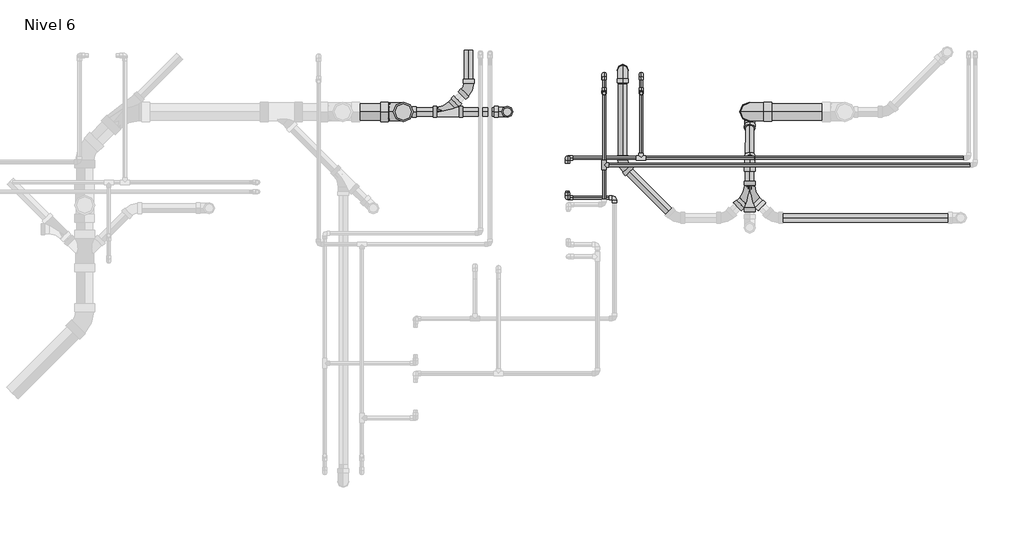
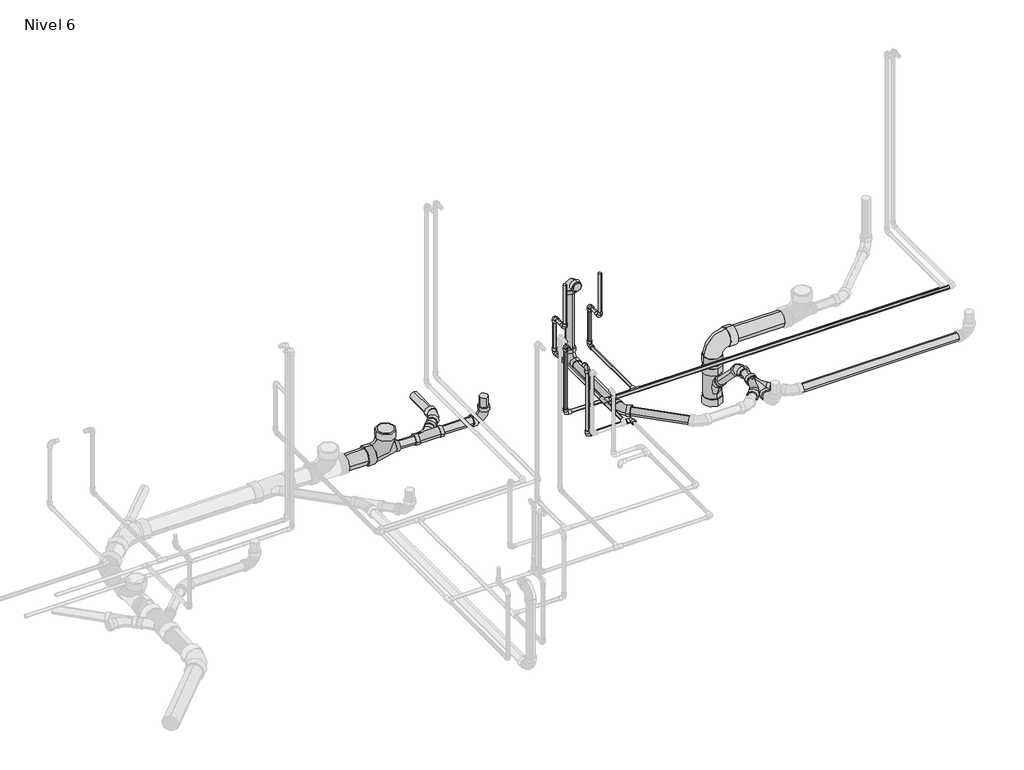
# One storey, part 6 of 11: 31 pipe segments, 24 pipe fittings.
"""IFC4 building model written with IfcOpenShell, lengths in millimetres."""

from ifc_helpers import new_model, si_unit, point, frame, frame_2d, origin, place, context, project, spatial, circle_curve, trimmed, segment, composite_curve, outline, extrude, transform, mapped, element, save
from components import pipe_fitting_ab418b84, pipe_fitting_0163322b, pipe_fitting_44a425ca, pipe_fitting_a666eca6, pipe_fitting_7e95fadc, m_codo_pvc_serie_40_9ad74631, m_codo_pvc_serie_40_ba05d404, m_codo_pvc_serie_40_dwv1_5c0ec739, m_codo_pvc_serie_40_dwv1_f5c0a64d, m_codo_pvc_serie_40_dwv1_6f1a2495, m_codo_pvc_serie_40_dwv1_f185b9cd

model = new_model("IFC4")

# Units and contexts
model_context = context("Model", 3, world=origin())
ifc_project = project(units=[si_unit("LENGTHUNIT", "METRE", prefix="MILLI")], contexts=[model_context])

# Site, building, storey
site = spatial("IfcSite", under=ifc_project)
building = spatial("IfcBuilding", under=site)
storey = spatial("IfcBuildingStorey", under=building, Name="Nivel 6", Elevation=13400.0)

# Pipe fittings
placement = place(None, origin())
pipe_fitting_shape = pipe_fitting_ab418b84(model_context)
element("IfcPipeFitting", 1, ObjectType="M_Te - PVC - Serie 40 : Estándar", at=placement, inside=storey, context=model_context, shape_type="MappedRepresentation", body=[
    mapped(pipe_fitting_shape, transform((6501.6215833, 6216.6711332, 13350.0), x_axis=(0.0, -1.0, 0.0), y_axis=(-1.0, 0.0, 0.0), z_axis=(0.0, 0.0, -1.0))),
])
element("IfcPipeFitting", 2, ObjectType="M_Te - PVC - Serie 40 : Estándar", at=placement, inside=storey, context=model_context, shape_type="MappedRepresentation", body=[
    mapped(pipe_fitting_shape, transform((6738.3784167, 6261.9268515, 13320.0), x_axis=(-1.0, 0.0, 0.0), y_axis=(0.0, -1.0, 0.0), z_axis=(0.0, 0.0, 1.0))),
])
pipe_fitting_2_shape = pipe_fitting_0163322b(model_context)
element("IfcPipeFitting", 3, ObjectType="M_Sanitario con te de reducción - PVC - Serie 40 - DWV : Estándar", at=placement, inside=storey, context=model_context, shape_type="MappedRepresentation", body=[
    mapped(pipe_fitting_2_shape, transform((5489.128297, 6555.7039726, 13250.0), x_axis=(1.0, 0.0, 0.0), y_axis=(0.0, -1.0, 0.0), z_axis=(0.0, 0.0, -1.0))),
])
pipe_fitting_3_shape = pipe_fitting_44a425ca(model_context)
element("IfcPipeFitting", 4, ObjectType="M_Sanitario con te de reducción - PVC - Serie 40 - DWV : Estándar", at=placement, inside=storey, context=model_context, shape_type="MappedRepresentation", body=[
    mapped(pipe_fitting_3_shape, transform((5218.2826915, 6555.7039726, 13250.0), x_axis=(1.0, 0.0, 0.0), y_axis=(0.0, 0.0, -1.0), z_axis=(0.0, 1.0, 0.0))),
])
pipe_fitting_4_shape = pipe_fitting_a666eca6(model_context)
element("IfcPipeFitting", 5, ObjectType="M_Sanitario con te doble con reducción - PVC - Serie 40 - DWV : Estándar", at=placement, inside=storey, context=model_context, shape_type="MappedRepresentation", body=[
    mapped(pipe_fitting_4_shape, transform((7431.4931519, 6027.6947184, 13250.0), x_axis=(0.0, -1.0, 0.0), y_axis=(-1.0, 0.0, 0.0), z_axis=(0.0, 0.0, -1.0))),
])
pipe_fitting_5_shape = pipe_fitting_7e95fadc(model_context)
element("IfcPipeFitting", 6, ObjectType="M_Sanitario con te de reducción - PVC - Serie 40 - DWV : Estándar", at=placement, inside=storey, context=model_context, shape_type="MappedRepresentation", body=[
    mapped(pipe_fitting_5_shape, transform((7432.242756, 6555.7721585, 12927.2744974), x_axis=(0.0, -0.0003748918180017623, 0.9999999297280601), y_axis=(0.003132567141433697, 0.9999950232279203, 0.00037488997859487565), z_axis=(-0.9999950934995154, 0.003132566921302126, 1.1743737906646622e-06))),
])
m_codo_pvc_serie_40_shape = m_codo_pvc_serie_40_9ad74631(model_context)
element("IfcPipeFitting", 7, ObjectType="M_Codo - PVC - Serie 40 : Estándar", at=placement, inside=storey, context=model_context, shape_type="MappedRepresentation", body=[
    mapped(m_codo_pvc_serie_40_shape, transform((6501.6215833, 6675.0992366, 13600.0), x_axis=(0.0, 0.0, -1.0), y_axis=(0.0, 1.0, 0.0), z_axis=(1.0, 0.0, 0.0))),
])
element("IfcPipeFitting", 8, ObjectType="M_Codo - PVC - Serie 40 : Estándar", at=placement, inside=storey, context=model_context, shape_type="MappedRepresentation", body=[
    mapped(m_codo_pvc_serie_40_shape, transform((6501.6215833, 6795.0992366, 13600.0), x_axis=(0.0, 1.0, 0.0), y_axis=(0.0, 0.0, -1.0), z_axis=(-1.0, 0.0, 0.0))),
])
element("IfcPipeFitting", 9, ObjectType="M_Codo - PVC - Serie 40 : Estándar", at=placement, inside=storey, context=model_context, shape_type="MappedRepresentation", body=[
    mapped(m_codo_pvc_serie_40_shape, transform((6501.6215833, 6795.0992366, 13350.0), x_axis=(0.0, 0.0, -1.0), y_axis=(0.0, -1.0, 0.0), z_axis=(-1.0, 0.0, 0.0))),
])
element("IfcPipeFitting", 10, ObjectType="M_Codo - PVC - Serie 40 : Estándar", at=placement, inside=storey, context=model_context, shape_type="MappedRepresentation", body=[
    mapped(m_codo_pvc_serie_40_shape, transform((6738.3784167, 6795.0992366, 13320.0), x_axis=(0.0, 0.0, -1.0), y_axis=(0.0, -1.0, 0.0), z_axis=(-1.0, 0.0, 0.0))),
])
element("IfcPipeFitting", 11, ObjectType="M_Codo - PVC - Serie 40 : Estándar", at=placement, inside=storey, context=model_context, shape_type="MappedRepresentation", body=[
    mapped(m_codo_pvc_serie_40_shape, transform((6267.9182604, 6261.9268515, 13320.0), x_axis=(-1.0, 0.0, 0.0), y_axis=(0.0, 0.0, 1.0), z_axis=(0.0, 1.0, 0.0))),
])
element("IfcPipeFitting", 12, ObjectType="M_Codo - PVC - Serie 40 : Estándar", at=placement, inside=storey, context=model_context, shape_type="MappedRepresentation", body=[
    mapped(m_codo_pvc_serie_40_shape, transform((6267.9182604, 6261.9268515, 13800.0), x_axis=(0.0, 0.0, 1.0), y_axis=(0.0, -1.0, 0.0), z_axis=(1.0, 0.0, 0.0))),
])
element("IfcPipeFitting", 13, ObjectType="M_Codo - PVC - Serie 40 : Estándar", at=placement, inside=storey, context=model_context, shape_type="MappedRepresentation", body=[
    mapped(m_codo_pvc_serie_40_shape, transform((6267.9182604, 6006.9268515, 13800.0), x_axis=(0.0, -1.0, 0.0), y_axis=(0.0, 0.0, -1.0), z_axis=(1.0, 0.0, 0.0))),
])
element("IfcPipeFitting", 14, ObjectType="M_Codo - PVC - Serie 40 : Estándar", at=placement, inside=storey, context=model_context, shape_type="MappedRepresentation", body=[
    mapped(m_codo_pvc_serie_40_shape, transform((6267.9182604, 6006.9268515, 13320.0), x_axis=(0.0, 0.0, -1.0), y_axis=(1.0, 0.0, 0.0), z_axis=(0.0, -1.0, 0.0))),
])
element("IfcPipeFitting", 15, ObjectType="M_Codo - PVC - Serie 40 : Estándar", at=placement, inside=storey, context=model_context, shape_type="MappedRepresentation", body=[
    mapped(m_codo_pvc_serie_40_shape, transform((6567.9182604, 6006.9268515, 13320.0), x_axis=(0.0, 1.0, 0.0), y_axis=(-1.0, 0.0, 0.0), z_axis=(0.0, 0.0, 1.0))),
])
m_codo_pvc_serie_40_2_shape = m_codo_pvc_serie_40_ba05d404(model_context)
element("IfcPipeFitting", 16, ObjectType="M_Codo - PVC - Serie 40 : Estándar", at=placement, inside=storey, context=model_context, shape_type="MappedRepresentation", body=[
    mapped(m_codo_pvc_serie_40_2_shape, transform((6738.3784167, 6675.0992366, 13600.0), x_axis=(0.0, 0.0, -1.0), y_axis=(0.0, -1.0, 0.0), z_axis=(-1.0, 0.0, 0.0))),
])
element("IfcPipeFitting", 17, ObjectType="M_Codo - PVC - Serie 40 : Estándar", at=placement, inside=storey, context=model_context, shape_type="MappedRepresentation", body=[
    mapped(m_codo_pvc_serie_40_2_shape, transform((6738.3784167, 6795.0992366, 13600.0), x_axis=(0.0, 1.0, 0.0), y_axis=(0.0, 0.0, 1.0), z_axis=(1.0, 0.0, 0.0))),
])
m_codo_pvc_serie_40_dwv1_shape = m_codo_pvc_serie_40_dwv1_5c0ec739(model_context)
element("IfcPipeFitting", 18, ObjectType="M_Codo - PVC - Serie 40 - DWV1 : Estándar 2", at=placement, inside=storey, context=model_context, shape_type="MappedRepresentation", body=[
    mapped(m_codo_pvc_serie_40_dwv1_shape, transform((6620.0, 6822.9419634, 13810.6716548), x_axis=(0.0, 1.0, 0.0), y_axis=(0.0, 0.0, -1.0), z_axis=(-1.0, 0.0, 0.0))),
])
element("IfcPipeFitting", 19, ObjectType="M_Codo - PVC - Serie 40 - DWV1 : Estándar 2", at=placement, inside=storey, context=model_context, shape_type="MappedRepresentation", body=[
    mapped(m_codo_pvc_serie_40_dwv1_shape, transform((6620.0, 6822.9419634, 13250.0), x_axis=(0.0, 0.0, -1.0), y_axis=(0.0, -1.0, 0.0), z_axis=(-1.0, 0.0, 0.0))),
])
element("IfcPipeFitting", 20, ObjectType="M_Codo - PVC - Serie 40 - DWV1 : Estándar 2", at=placement, inside=storey, context=model_context, shape_type="MappedRepresentation", body=[
    mapped(m_codo_pvc_serie_40_dwv1_shape, transform((5882.9659037, 6555.7039726, 13250.0), x_axis=(0.0, 0.0, -1.0), y_axis=(-1.0, 0.0, 0.0), z_axis=(0.0, 1.0, 0.0))),
])
m_codo_pvc_serie_40_dwv1_2_shape = m_codo_pvc_serie_40_dwv1_f5c0a64d(model_context)
element("IfcPipeFitting", 21, ObjectType="M_Codo - PVC - Serie 40 - DWV1 : Estándar 2", at=placement, inside=storey, context=model_context, shape_type="MappedRepresentation", body=[
    mapped(m_codo_pvc_serie_40_dwv1_2_shape, transform((7432.3176766, 6555.7039726, 13250.0), x_axis=(-1.0, 0.0, 0.0), y_axis=(0.0, 0.0, -1.0), z_axis=(0.0, -1.0, 0.0))),
])
m_codo_pvc_serie_40_dwv1_3_shape = m_codo_pvc_serie_40_dwv1_6f1a2495(model_context)
element("IfcPipeFitting", 22, ObjectType="M_Codo - PVC - Serie 40 - DWV1 : Estándar 2", at=placement, inside=storey, context=model_context, shape_type="MappedRepresentation", body=[
    mapped(m_codo_pvc_serie_40_dwv1_3_shape, transform((6620.0, 6215.0, 13250.0), x_axis=(0.0, -1.0, 0.0), y_axis=(1.0, 0.0, 0.0), z_axis=(0.0, 0.0, 1.0))),
])
element("IfcPipeFitting", 23, ObjectType="M_Codo - PVC - Serie 40 - DWV1 : Estándar 2", at=placement, inside=storey, context=model_context, shape_type="MappedRepresentation", body=[
    mapped(m_codo_pvc_serie_40_dwv1_3_shape, transform((5636.2603313, 6702.836007, 13250.0), x_axis=(0.7071067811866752, 0.7071067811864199, 0.0), y_axis=(-0.7071067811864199, 0.7071067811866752, 0.0), z_axis=(0.0, 0.0, 1.0))),
])
m_codo_pvc_serie_40_dwv1_4_shape = m_codo_pvc_serie_40_dwv1_f185b9cd(model_context)
element("IfcPipeFitting", 24, ObjectType="M_Codo - PVC - Serie 40 - DWV1 : Estándar 2", at=placement, inside=storey, context=model_context, shape_type="MappedRepresentation", body=[
    mapped(m_codo_pvc_serie_40_dwv1_4_shape, transform((7431.4931519, 6233.0466559, 13250.0), x_axis=(0.0, 1.0, 0.0), y_axis=(0.003131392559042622, 0.0, -0.9999950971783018), z_axis=(-0.9999950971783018, 0.0, -0.003131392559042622))),
])

# Pipe segments
element("IfcPipeSegment", 25, ObjectType="Tuberia PVC Agua Fria", at=placement, inside=storey, context=model_context, shape_type="SweptSolid", body=[
    extrude(outline(composite_curve([segment(trimmed(circle_curve(frame_2d((6216.6711332, 13350.0)), 10.31875), [point((6206.3523832, 13350.0))], [point((6216.6711332, 13360.31875))], False, "CARTESIAN"), True, "CONTINUOUS"), segment(trimmed(circle_curve(frame_2d((6216.6711332, 13350.0)), 10.31875), [point((6216.6711332, 13360.31875))], [point((6226.9898832, 13350.0))], False, "CARTESIAN"), True, "CONTINUOUS"), segment(trimmed(circle_curve(frame_2d((6216.6711332, 13350.0)), 10.31875), [point((6226.9898832, 13350.0))], [point((6216.6711332, 13339.68125))], False, "CARTESIAN"), True, "CONTINUOUS"), segment(trimmed(circle_curve(frame_2d((6216.6711332, 13350.0)), 10.31875), [point((6216.6711332, 13339.68125))], [point((6206.3523832, 13350.0))], False, "CARTESIAN"), True, "CONTINUOUS")], self_intersect=False)), frame((6532.0817396, 0.0, 0.0), z_axis=(1.0, 0.0, 0.0), x_axis=(0.0, 1.0, 0.0)), (0.0, 0.0, 1.0), 2307.5298926),
])
element("IfcPipeSegment", 26, ObjectType="Tuberia PVC Agua Fria", at=placement, inside=storey, context=model_context, shape_type="SweptSolid", body=[
    extrude(outline(composite_curve([segment(trimmed(circle_curve(frame_2d((13600.0, 6501.6215833)), 10.31875), [point((13600.0, 6511.9403333))], [point((13610.31875, 6501.6215833))], False, "CARTESIAN"), True, "CONTINUOUS"), segment(trimmed(circle_curve(frame_2d((13600.0, 6501.6215833)), 10.31875), [point((13610.31875, 6501.6215833))], [point((13600.0, 6491.3028333))], False, "CARTESIAN"), True, "CONTINUOUS"), segment(trimmed(circle_curve(frame_2d((13600.0, 6501.6215833)), 10.31875), [point((13600.0, 6491.3028333))], [point((13589.68125, 6501.6215833))], False, "CARTESIAN"), True, "CONTINUOUS"), segment(trimmed(circle_curve(frame_2d((13600.0, 6501.6215833)), 10.31875), [point((13589.68125, 6501.6215833))], [point((13600.0, 6511.9403333))], False, "CARTESIAN"), True, "CONTINUOUS")], self_intersect=False)), frame((0.0, 6708.5002366, 0.0), z_axis=(0.0, 1.0, 0.0), x_axis=(0.0, 0.0, 1.0)), (0.0, 0.0, 1.0), 53.198),
])
element("IfcPipeSegment", 27, ObjectType="Tuberia PVC Agua Fria", at=placement, inside=storey, context=model_context, shape_type="SweptSolid", body=[
    extrude(outline(composite_curve([segment(trimmed(circle_curve(frame_2d((6501.6215833, 6675.0992366)), 10.31875), [point((6511.9403333, 6675.0992366))], [point((6501.6215833, 6664.7804866))], False, "CARTESIAN"), True, "CONTINUOUS"), segment(trimmed(circle_curve(frame_2d((6501.6215833, 6675.0992366)), 10.31875), [point((6501.6215833, 6664.7804866))], [point((6491.3028333, 6675.0992366))], False, "CARTESIAN"), True, "CONTINUOUS"), segment(trimmed(circle_curve(frame_2d((6501.6215833, 6675.0992366)), 10.31875), [point((6491.3028333, 6675.0992366))], [point((6501.6215833, 6685.4179866))], False, "CARTESIAN"), True, "CONTINUOUS"), segment(trimmed(circle_curve(frame_2d((6501.6215833, 6675.0992366)), 10.31875), [point((6501.6215833, 6685.4179866))], [point((6511.9403333, 6675.0992366))], False, "CARTESIAN"), True, "CONTINUOUS")], self_intersect=False)), frame((0.0, 0.0, 13633.401), z_axis=(0.0, 0.0, 1.0), x_axis=(1.0, 0.0, 0.0)), (0.0, 0.0, 1.0), 274.0983614),
])
element("IfcPipeSegment", 28, ObjectType="Tuberia PVC Agua Fria", at=placement, inside=storey, context=model_context, shape_type="SweptSolid", body=[
    extrude(outline(composite_curve([segment(trimmed(circle_curve(frame_2d((13350.0, 6501.6215833)), 10.31875), [point((13350.0, 6511.9403333))], [point((13360.31875, 6501.6215833))], False, "CARTESIAN"), True, "CONTINUOUS"), segment(trimmed(circle_curve(frame_2d((13350.0, 6501.6215833)), 10.31875), [point((13360.31875, 6501.6215833))], [point((13350.0, 6491.3028333))], False, "CARTESIAN"), True, "CONTINUOUS"), segment(trimmed(circle_curve(frame_2d((13350.0, 6501.6215833)), 10.31875), [point((13350.0, 6491.3028333))], [point((13339.68125, 6501.6215833))], False, "CARTESIAN"), True, "CONTINUOUS"), segment(trimmed(circle_curve(frame_2d((13350.0, 6501.6215833)), 10.31875), [point((13339.68125, 6501.6215833))], [point((13350.0, 6511.9403333))], False, "CARTESIAN"), True, "CONTINUOUS")], self_intersect=False)), frame((0.0, 6247.1312895, 0.0), z_axis=(0.0, 1.0, 0.0), x_axis=(0.0, 0.0, 1.0)), (0.0, 0.0, 1.0), 514.5669472),
])
element("IfcPipeSegment", 29, ObjectType="Tuberia PVC Agua Fria", at=placement, inside=storey, context=model_context, shape_type="SweptSolid", body=[
    extrude(outline(composite_curve([segment(trimmed(circle_curve(frame_2d((6501.6215833, 6795.0992366)), 10.31875), [point((6511.9403333, 6795.0992366))], [point((6501.6215833, 6784.7804866))], False, "CARTESIAN"), True, "CONTINUOUS"), segment(trimmed(circle_curve(frame_2d((6501.6215833, 6795.0992366)), 10.31875), [point((6501.6215833, 6784.7804866))], [point((6491.3028333, 6795.0992366))], False, "CARTESIAN"), True, "CONTINUOUS"), segment(trimmed(circle_curve(frame_2d((6501.6215833, 6795.0992366)), 10.31875), [point((6491.3028333, 6795.0992366))], [point((6501.6215833, 6805.4179866))], False, "CARTESIAN"), True, "CONTINUOUS"), segment(trimmed(circle_curve(frame_2d((6501.6215833, 6795.0992366)), 10.31875), [point((6501.6215833, 6805.4179866))], [point((6511.9403333, 6795.0992366))], False, "CARTESIAN"), True, "CONTINUOUS")], self_intersect=False)), frame((0.0, 0.0, 13383.401), z_axis=(0.0, 0.0, 1.0), x_axis=(1.0, 0.0, 0.0)), (0.0, 0.0, 1.0), 183.198),
])
element("IfcPipeSegment", 30, ObjectType="Tuberia PVC Agua Fria", at=placement, inside=storey, context=model_context, shape_type="SweptSolid", body=[
    extrude(outline(composite_curve([segment(trimmed(circle_curve(frame_2d((13350.0, 6501.6215833)), 10.31875), [point((13350.0, 6491.3028333))], [point((13339.68125, 6501.6215833))], False, "CARTESIAN"), True, "CONTINUOUS"), segment(trimmed(circle_curve(frame_2d((13350.0, 6501.6215833)), 10.31875), [point((13339.68125, 6501.6215833))], [point((13350.0, 6511.9403333))], False, "CARTESIAN"), True, "CONTINUOUS"), segment(trimmed(circle_curve(frame_2d((13350.0, 6501.6215833)), 10.31875), [point((13350.0, 6511.9403333))], [point((13360.31875, 6501.6215833))], False, "CARTESIAN"), True, "CONTINUOUS"), segment(trimmed(circle_curve(frame_2d((13350.0, 6501.6215833)), 10.31875), [point((13360.31875, 6501.6215833))], [point((13350.0, 6491.3028333))], False, "CARTESIAN"), True, "CONTINUOUS")], self_intersect=False)), frame((0.0, 5996.4991896, 0.0), z_axis=(0.0, 1.0, 0.0), x_axis=(0.0, 0.0, 1.0)), (0.0, 0.0, 1.0), 189.7117874),
])
element("IfcPipeSegment", 31, ObjectType="Tuberia PVC VENTILACION", at=placement, inside=storey, context=model_context, shape_type="SweptSolid", body=[
    extrude(outline(composite_curve([segment(trimmed(circle_curve(frame_2d((13250.0, 5636.2603313)), 26.9875), [point((13250.0, 5663.2478313))], [point((13276.9875, 5636.2603313))], False, "CARTESIAN"), True, "CONTINUOUS"), segment(trimmed(circle_curve(frame_2d((13250.0, 5636.2603313)), 26.9875), [point((13276.9875, 5636.2603313))], [point((13250.0, 5609.2728313))], False, "CARTESIAN"), True, "CONTINUOUS"), segment(trimmed(circle_curve(frame_2d((13250.0, 5636.2603313)), 26.9875), [point((13250.0, 5609.2728313))], [point((13223.0125, 5636.2603313))], False, "CARTESIAN"), True, "CONTINUOUS"), segment(trimmed(circle_curve(frame_2d((13250.0, 5636.2603313)), 26.9875), [point((13223.0125, 5636.2603313))], [point((13250.0, 5663.2478313))], False, "CARTESIAN"), True, "CONTINUOUS")], self_intersect=False)), frame((0.0, 6763.2641945, 0.0), z_axis=(0.0, 1.0, 0.0), x_axis=(0.0, 0.0, 1.0)), (0.0, 0.0, 1.0), 184.5718125),
])
element("IfcPipeSegment", 32, ObjectType="Tuberia PVC Agua Caliente", at=placement, inside=storey, context=model_context, shape_type="SweptSolid", body=[
    extrude(outline(composite_curve([segment(trimmed(circle_curve(frame_2d((13600.0, 6738.3784167)), 10.31875), [point((13600.0, 6748.6971667))], [point((13610.31875, 6738.3784167))], False, "CARTESIAN"), True, "CONTINUOUS"), segment(trimmed(circle_curve(frame_2d((13600.0, 6738.3784167)), 10.31875), [point((13610.31875, 6738.3784167))], [point((13600.0, 6728.0596667))], False, "CARTESIAN"), True, "CONTINUOUS"), segment(trimmed(circle_curve(frame_2d((13600.0, 6738.3784167)), 10.31875), [point((13600.0, 6728.0596667))], [point((13589.68125, 6738.3784167))], False, "CARTESIAN"), True, "CONTINUOUS"), segment(trimmed(circle_curve(frame_2d((13600.0, 6738.3784167)), 10.31875), [point((13589.68125, 6738.3784167))], [point((13600.0, 6748.6971667))], False, "CARTESIAN"), True, "CONTINUOUS")], self_intersect=False)), frame((0.0, 6708.5002366, 0.0), z_axis=(0.0, 1.0, 0.0), x_axis=(0.0, 0.0, 1.0)), (0.0, 0.0, 1.0), 53.198),
])
element("IfcPipeSegment", 33, ObjectType="Tuberia PVC Agua Caliente", at=placement, inside=storey, context=model_context, shape_type="SweptSolid", body=[
    extrude(outline(composite_curve([segment(trimmed(circle_curve(frame_2d((6738.3784167, 6675.0992366)), 10.31875), [point((6748.6971667, 6675.0992366))], [point((6738.3784167, 6664.7804866))], False, "CARTESIAN"), True, "CONTINUOUS"), segment(trimmed(circle_curve(frame_2d((6738.3784167, 6675.0992366)), 10.31875), [point((6738.3784167, 6664.7804866))], [point((6728.0596667, 6675.0992366))], False, "CARTESIAN"), True, "CONTINUOUS"), segment(trimmed(circle_curve(frame_2d((6738.3784167, 6675.0992366)), 10.31875), [point((6728.0596667, 6675.0992366))], [point((6738.3784167, 6685.4179866))], False, "CARTESIAN"), True, "CONTINUOUS"), segment(trimmed(circle_curve(frame_2d((6738.3784167, 6675.0992366)), 10.31875), [point((6738.3784167, 6685.4179866))], [point((6748.6971667, 6675.0992366))], False, "CARTESIAN"), True, "CONTINUOUS")], self_intersect=False)), frame((0.0, 0.0, 13633.401), z_axis=(0.0, 0.0, 1.0), x_axis=(1.0, 0.0, 0.0)), (0.0, 0.0, 1.0), 274.0983614),
])
element("IfcPipeSegment", 34, ObjectType="Tuberia PVC Agua Caliente", at=placement, inside=storey, context=model_context, shape_type="SweptSolid", body=[
    extrude(outline(composite_curve([segment(trimmed(circle_curve(frame_2d((6738.3784167, 6795.0992366)), 10.31875), [point((6748.6971667, 6795.0992366))], [point((6738.3784167, 6784.7804866))], False, "CARTESIAN"), True, "CONTINUOUS"), segment(trimmed(circle_curve(frame_2d((6738.3784167, 6795.0992366)), 10.31875), [point((6738.3784167, 6784.7804866))], [point((6728.0596667, 6795.0992366))], False, "CARTESIAN"), True, "CONTINUOUS"), segment(trimmed(circle_curve(frame_2d((6738.3784167, 6795.0992366)), 10.31875), [point((6728.0596667, 6795.0992366))], [point((6738.3784167, 6805.4179866))], False, "CARTESIAN"), True, "CONTINUOUS"), segment(trimmed(circle_curve(frame_2d((6738.3784167, 6795.0992366)), 10.31875), [point((6738.3784167, 6805.4179866))], [point((6748.6971667, 6795.0992366))], False, "CARTESIAN"), True, "CONTINUOUS")], self_intersect=False)), frame((0.0, 0.0, 13353.401), z_axis=(0.0, 0.0, 1.0), x_axis=(1.0, 0.0, 0.0)), (0.0, 0.0, 1.0), 213.198),
])
element("IfcPipeSegment", 35, ObjectType="Tuberia PVC Agua Caliente", at=placement, inside=storey, context=model_context, shape_type="SweptSolid", body=[
    extrude(outline(composite_curve([segment(trimmed(circle_curve(frame_2d((13320.0, 6738.3784167)), 10.31875), [point((13320.0, 6728.0596667))], [point((13309.68125, 6738.3784167))], False, "CARTESIAN"), True, "CONTINUOUS"), segment(trimmed(circle_curve(frame_2d((13320.0, 6738.3784167)), 10.31875), [point((13309.68125, 6738.3784167))], [point((13320.0, 6748.6971667))], False, "CARTESIAN"), True, "CONTINUOUS"), segment(trimmed(circle_curve(frame_2d((13320.0, 6738.3784167)), 10.31875), [point((13320.0, 6748.6971667))], [point((13330.31875, 6738.3784167))], False, "CARTESIAN"), True, "CONTINUOUS"), segment(trimmed(circle_curve(frame_2d((13320.0, 6738.3784167)), 10.31875), [point((13330.31875, 6738.3784167))], [point((13320.0, 6728.0596667))], False, "CARTESIAN"), True, "CONTINUOUS")], self_intersect=False)), frame((0.0, 6292.3870077, 0.0), z_axis=(0.0, 1.0, 0.0), x_axis=(0.0, 0.0, 1.0)), (0.0, 0.0, 1.0), 469.3112289),
])
element("IfcPipeSegment", 36, ObjectType="Tuberia PVC Agua Caliente", at=placement, inside=storey, context=model_context, shape_type="SweptSolid", body=[
    extrude(outline(composite_curve([segment(trimmed(circle_curve(frame_2d((6261.9268515, 13320.0)), 10.31875), [point((6251.6081015, 13320.0))], [point((6261.9268515, 13330.31875))], False, "CARTESIAN"), True, "CONTINUOUS"), segment(trimmed(circle_curve(frame_2d((6261.9268515, 13320.0)), 10.31875), [point((6261.9268515, 13330.31875))], [point((6272.2456015, 13320.0))], False, "CARTESIAN"), True, "CONTINUOUS"), segment(trimmed(circle_curve(frame_2d((6261.9268515, 13320.0)), 10.31875), [point((6272.2456015, 13320.0))], [point((6261.9268515, 13309.68125))], False, "CARTESIAN"), True, "CONTINUOUS"), segment(trimmed(circle_curve(frame_2d((6261.9268515, 13320.0)), 10.31875), [point((6261.9268515, 13309.68125))], [point((6251.6081015, 13320.0))], False, "CARTESIAN"), True, "CONTINUOUS")], self_intersect=False)), frame((6768.8385729, 0.0, 0.0), z_axis=(1.0, 0.0, 0.0), x_axis=(0.0, 1.0, 0.0)), (0.0, 0.0, 1.0), 2029.4500322),
])
element("IfcPipeSegment", 37, ObjectType="Tuberia PVC Agua Caliente", at=placement, inside=storey, context=model_context, shape_type="SweptSolid", body=[
    extrude(outline(composite_curve([segment(trimmed(circle_curve(frame_2d((6261.9268515, 13320.0)), 10.31875), [point((6272.2456015, 13320.0))], [point((6261.9268515, 13309.68125))], False, "CARTESIAN"), True, "CONTINUOUS"), segment(trimmed(circle_curve(frame_2d((6261.9268515, 13320.0)), 10.31875), [point((6261.9268515, 13309.68125))], [point((6251.6081015, 13320.0))], False, "CARTESIAN"), True, "CONTINUOUS"), segment(trimmed(circle_curve(frame_2d((6261.9268515, 13320.0)), 10.31875), [point((6251.6081015, 13320.0))], [point((6261.9268515, 13330.31875))], False, "CARTESIAN"), True, "CONTINUOUS"), segment(trimmed(circle_curve(frame_2d((6261.9268515, 13320.0)), 10.31875), [point((6261.9268515, 13330.31875))], [point((6272.2456015, 13320.0))], False, "CARTESIAN"), True, "CONTINUOUS")], self_intersect=False)), frame((6301.3192604, 0.0, 0.0), z_axis=(1.0, 0.0, 0.0), x_axis=(0.0, 1.0, 0.0)), (0.0, 0.0, 1.0), 406.599),
])
element("IfcPipeSegment", 38, ObjectType="Tuberia PVC Agua Caliente", at=placement, inside=storey, context=model_context, shape_type="SweptSolid", body=[
    extrude(outline(composite_curve([segment(trimmed(circle_curve(frame_2d((13800.0, 6267.9182604)), 10.31875), [point((13800.0, 6257.5995104))], [point((13789.68125, 6267.9182604))], False, "CARTESIAN"), True, "CONTINUOUS"), segment(trimmed(circle_curve(frame_2d((13800.0, 6267.9182604)), 10.31875), [point((13789.68125, 6267.9182604))], [point((13800.0, 6278.2370104))], False, "CARTESIAN"), True, "CONTINUOUS"), segment(trimmed(circle_curve(frame_2d((13800.0, 6267.9182604)), 10.31875), [point((13800.0, 6278.2370104))], [point((13810.31875, 6267.9182604))], False, "CARTESIAN"), True, "CONTINUOUS"), segment(trimmed(circle_curve(frame_2d((13800.0, 6267.9182604)), 10.31875), [point((13810.31875, 6267.9182604))], [point((13800.0, 6257.5995104))], False, "CARTESIAN"), True, "CONTINUOUS")], self_intersect=False)), frame((0.0, 6040.3278515, 0.0), z_axis=(0.0, 1.0, 0.0), x_axis=(0.0, 0.0, 1.0)), (0.0, 0.0, 1.0), 7.599),
])
element("IfcPipeSegment", 39, ObjectType="Tuberia PVC Agua Caliente", at=placement, inside=storey, context=model_context, shape_type="SweptSolid", body=[
    extrude(outline(composite_curve([segment(trimmed(circle_curve(frame_2d((6267.9182604, 6261.9268515)), 10.31875), [point((6257.5995104, 6261.9268515))], [point((6267.9182604, 6272.2456015))], False, "CARTESIAN"), True, "CONTINUOUS"), segment(trimmed(circle_curve(frame_2d((6267.9182604, 6261.9268515)), 10.31875), [point((6267.9182604, 6272.2456015))], [point((6278.2370104, 6261.9268515))], False, "CARTESIAN"), True, "CONTINUOUS"), segment(trimmed(circle_curve(frame_2d((6267.9182604, 6261.9268515)), 10.31875), [point((6278.2370104, 6261.9268515))], [point((6267.9182604, 6251.6081015))], False, "CARTESIAN"), True, "CONTINUOUS"), segment(trimmed(circle_curve(frame_2d((6267.9182604, 6261.9268515)), 10.31875), [point((6267.9182604, 6251.6081015))], [point((6257.5995104, 6261.9268515))], False, "CARTESIAN"), True, "CONTINUOUS")], self_intersect=False)), frame((0.0, 0.0, 13353.401), z_axis=(0.0, 0.0, 1.0), x_axis=(1.0, 0.0, 0.0)), (0.0, 0.0, 1.0), 413.198),
])
element("IfcPipeSegment", 40, ObjectType="Tuberia PVC Agua Caliente", at=placement, inside=storey, context=model_context, shape_type="SweptSolid", body=[
    extrude(outline(composite_curve([segment(trimmed(circle_curve(frame_2d((6006.9268515, 13320.0)), 10.31875), [point((5996.6081015, 13320.0))], [point((6006.9268515, 13330.31875))], False, "CARTESIAN"), True, "CONTINUOUS"), segment(trimmed(circle_curve(frame_2d((6006.9268515, 13320.0)), 10.31875), [point((6006.9268515, 13330.31875))], [point((6017.2456015, 13320.0))], False, "CARTESIAN"), True, "CONTINUOUS"), segment(trimmed(circle_curve(frame_2d((6006.9268515, 13320.0)), 10.31875), [point((6017.2456015, 13320.0))], [point((6006.9268515, 13309.68125))], False, "CARTESIAN"), True, "CONTINUOUS"), segment(trimmed(circle_curve(frame_2d((6006.9268515, 13320.0)), 10.31875), [point((6006.9268515, 13309.68125))], [point((5996.6081015, 13320.0))], False, "CARTESIAN"), True, "CONTINUOUS")], self_intersect=False)), frame((6301.3192604, 0.0, 0.0), z_axis=(1.0, 0.0, 0.0), x_axis=(0.0, 1.0, 0.0)), (0.0, 0.0, 1.0), 233.198),
])
element("IfcPipeSegment", 41, ObjectType="Tuberia PVC Agua Caliente", at=placement, inside=storey, context=model_context, shape_type="SweptSolid", body=[
    extrude(outline(composite_curve([segment(trimmed(circle_curve(frame_2d((6267.9182604, 6006.9268515)), 10.31875), [point((6278.2370104, 6006.9268515))], [point((6267.9182604, 5996.6081015))], False, "CARTESIAN"), True, "CONTINUOUS"), segment(trimmed(circle_curve(frame_2d((6267.9182604, 6006.9268515)), 10.31875), [point((6267.9182604, 5996.6081015))], [point((6257.5995104, 6006.9268515))], False, "CARTESIAN"), True, "CONTINUOUS"), segment(trimmed(circle_curve(frame_2d((6267.9182604, 6006.9268515)), 10.31875), [point((6257.5995104, 6006.9268515))], [point((6267.9182604, 6017.2456015))], False, "CARTESIAN"), True, "CONTINUOUS"), segment(trimmed(circle_curve(frame_2d((6267.9182604, 6006.9268515)), 10.31875), [point((6267.9182604, 6017.2456015))], [point((6278.2370104, 6006.9268515))], False, "CARTESIAN"), True, "CONTINUOUS")], self_intersect=False)), frame((0.0, 0.0, 13353.401), z_axis=(0.0, 0.0, 1.0), x_axis=(1.0, 0.0, 0.0)), (0.0, 0.0, 1.0), 413.198),
])
element("IfcPipeSegment", 42, ObjectType="Tuberia PVC Agua Caliente", at=placement, inside=storey, context=model_context, shape_type="SweptSolid", body=[
    extrude(outline(composite_curve([segment(trimmed(circle_curve(frame_2d((0.0, -10.31875)), 10.31875), [point((0.0, 0.0))], [point((10.31875, -10.31875))], False, "CARTESIAN"), True, "CONTINUOUS"), segment(trimmed(circle_curve(frame_2d((0.0, -10.31875)), 10.31875), [point((10.31875, -10.31875))], [point((0.0, -20.6375))], False, "CARTESIAN"), True, "CONTINUOUS"), segment(trimmed(circle_curve(frame_2d((0.0, -10.31875)), 10.31875), [point((0.0, -20.6375))], [point((-10.31875, -10.31875))], False, "CARTESIAN"), True, "CONTINUOUS"), segment(trimmed(circle_curve(frame_2d((0.0, -10.31875)), 10.31875), [point((-10.31875, -10.31875))], [point((0.0, 0.0))], False, "CARTESIAN"), True, "CONTINUOUS")], self_intersect=False)), frame((6257.5995104, 6225.9268515, 13800.0), z_axis=(-1.679067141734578e-12, 1.0, 0.0), x_axis=(0.0, 0.0, -1.0)), (0.0, 0.0, 1.0), 2.599),
])
element("IfcPipeSegment", 43, ObjectType="Tuberia PVC Sanitario", at=placement, inside=storey, context=model_context, shape_type="SweptSolid", body=[
    extrude(outline(composite_curve([segment(trimmed(circle_curve(frame_2d((5877.7956387, 13250.0)), 26.9875), [point((5904.7831387, 13250.0))], [point((5877.7956387, 13223.0125))], False, "CARTESIAN"), True, "CONTINUOUS"), segment(trimmed(circle_curve(frame_2d((5877.7956387, 13250.0)), 26.9875), [point((5877.7956387, 13223.0125))], [point((5850.8081387, 13250.0))], False, "CARTESIAN"), True, "CONTINUOUS"), segment(trimmed(circle_curve(frame_2d((5877.7956387, 13250.0)), 26.9875), [point((5850.8081387, 13250.0))], [point((5877.7956387, 13276.9875))], False, "CARTESIAN"), True, "CONTINUOUS"), segment(trimmed(circle_curve(frame_2d((5877.7956387, 13250.0)), 26.9875), [point((5877.7956387, 13276.9875))], [point((5904.7831387, 13250.0))], False, "CARTESIAN"), True, "CONTINUOUS")], self_intersect=False)), frame((7641.8204191, 0.0, 0.0), z_axis=(1.0, 0.0, 0.0), x_axis=(0.0, 1.0, 0.0)), (0.0, 0.0, 1.0), 1057.1464575),
])
element("IfcPipeSegment", 44, ObjectType="Tuberia PVC Sanitario", at=placement, inside=storey, context=model_context, shape_type="SweptSolid", body=[
    extrude(outline(composite_curve([segment(trimmed(circle_curve(frame_2d((6555.7039726, 13250.0)), 52.3875), [point((6608.0914726, 13250.0))], [point((6555.7039726, 13197.6125))], False, "CARTESIAN"), True, "CONTINUOUS"), segment(trimmed(circle_curve(frame_2d((6555.7039726, 13250.0)), 52.3875), [point((6555.7039726, 13197.6125))], [point((6503.3164726, 13250.0))], False, "CARTESIAN"), True, "CONTINUOUS"), segment(trimmed(circle_curve(frame_2d((6555.7039726, 13250.0)), 52.3875), [point((6503.3164726, 13250.0))], [point((6555.7039726, 13302.3875))], False, "CARTESIAN"), True, "CONTINUOUS"), segment(trimmed(circle_curve(frame_2d((6555.7039726, 13250.0)), 52.3875), [point((6555.7039726, 13302.3875))], [point((6608.0914726, 13250.0))], False, "CARTESIAN"), True, "CONTINUOUS")], self_intersect=False)), frame((7573.7877391, 0.0, 0.0), z_axis=(1.0, 0.0, 0.0), x_axis=(0.0, 1.0, 0.0)), (0.0, 0.0, 1.0), 322.0143327),
])
element("IfcPipeSegment", 45, ObjectType="Tuberia PVC Sanitario", at=placement, inside=storey, context=model_context, shape_type="SweptSolid", body=[
    extrude(outline(composite_curve([segment(trimmed(circle_curve(frame_2d((13250.0, 6620.0)), 26.9875), [point((13250.0, 6593.0125))], [point((13223.0125, 6620.0))], False, "CARTESIAN"), True, "CONTINUOUS"), segment(trimmed(circle_curve(frame_2d((13250.0, 6620.0)), 26.9875), [point((13223.0125, 6620.0))], [point((13250.0, 6646.9875))], False, "CARTESIAN"), True, "CONTINUOUS"), segment(trimmed(circle_curve(frame_2d((13250.0, 6620.0)), 26.9875), [point((13250.0, 6646.9875))], [point((13276.9875, 6620.0))], False, "CARTESIAN"), True, "CONTINUOUS"), segment(trimmed(circle_curve(frame_2d((13250.0, 6620.0)), 26.9875), [point((13276.9875, 6620.0))], [point((13250.0, 6593.0125))], False, "CARTESIAN"), True, "CONTINUOUS")], self_intersect=False)), frame((0.0, 6275.4281875, 0.0), z_axis=(0.0, 1.0, 0.0), x_axis=(0.0, 0.0, 1.0)), (0.0, 0.0, 1.0), 464.9717134),
])
element("IfcPipeSegment", 46, ObjectType="Tuberia PVC Sanitario", at=placement, inside=storey, context=model_context, shape_type="SweptSolid", body=[
    extrude(outline(composite_curve([segment(trimmed(circle_curve(frame_2d((13810.6716548, 6620.0)), 26.9875), [point((13810.6716548, 6646.9875))], [point((13837.6591548, 6620.0))], False, "CARTESIAN"), True, "CONTINUOUS"), segment(trimmed(circle_curve(frame_2d((13810.6716548, 6620.0)), 26.9875), [point((13837.6591548, 6620.0))], [point((13810.6716548, 6593.0125))], False, "CARTESIAN"), True, "CONTINUOUS"), segment(trimmed(circle_curve(frame_2d((13810.6716548, 6620.0)), 26.9875), [point((13810.6716548, 6593.0125))], [point((13783.6841548, 6620.0))], False, "CARTESIAN"), True, "CONTINUOUS"), segment(trimmed(circle_curve(frame_2d((13810.6716548, 6620.0)), 26.9875), [point((13783.6841548, 6620.0))], [point((13810.6716548, 6646.9875))], False, "CARTESIAN"), True, "CONTINUOUS")], self_intersect=False)), frame((0.0, 6735.0, 0.0), z_axis=(0.0, 1.0, 0.0), x_axis=(0.0, 0.0, 1.0)), (0.0, 0.0, 1.0), 5.3999009),
])
element("IfcPipeSegment", 47, ObjectType="Tuberia PVC Sanitario", at=placement, inside=storey, context=model_context, shape_type="SweptSolid", body=[
    extrude(outline(composite_curve([segment(trimmed(circle_curve(frame_2d((6620.0, 6822.9419634)), 26.9875), [point((6646.9875, 6822.9419634))], [point((6620.0, 6795.9544634))], False, "CARTESIAN"), True, "CONTINUOUS"), segment(trimmed(circle_curve(frame_2d((6620.0, 6822.9419634)), 26.9875), [point((6620.0, 6795.9544634))], [point((6593.0125, 6822.9419634))], False, "CARTESIAN"), True, "CONTINUOUS"), segment(trimmed(circle_curve(frame_2d((6620.0, 6822.9419634)), 26.9875), [point((6593.0125, 6822.9419634))], [point((6620.0, 6849.9294634))], False, "CARTESIAN"), True, "CONTINUOUS"), segment(trimmed(circle_curve(frame_2d((6620.0, 6822.9419634)), 26.9875), [point((6620.0, 6849.9294634))], [point((6646.9875, 6822.9419634))], False, "CARTESIAN"), True, "CONTINUOUS")], self_intersect=False)), frame((0.0, 0.0, 13332.5420625), z_axis=(0.0, 0.0, 1.0), x_axis=(1.0, 0.0, 0.0)), (0.0, 0.0, 1.0), 395.5875298),
])
element("IfcPipeSegment", 48, ObjectType="Tuberia PVC Sanitario", at=placement, inside=storey, context=model_context, shape_type="SweptSolid", body=[
    extrude(outline(composite_curve([segment(trimmed(circle_curve(frame_2d((0.0, -26.9875)), 26.9875), [point((-26.9875, -26.9875))], [point((0.0, 0.0))], False, "CARTESIAN"), True, "CONTINUOUS"), segment(trimmed(circle_curve(frame_2d((0.0, -26.9875)), 26.9875), [point((0.0, 0.0))], [point((26.9875, -26.9875))], False, "CARTESIAN"), True, "CONTINUOUS"), segment(trimmed(circle_curve(frame_2d((0.0, -26.9875)), 26.9875), [point((26.9875, -26.9875))], [point((0.0, -53.975))], False, "CARTESIAN"), True, "CONTINUOUS"), segment(trimmed(circle_curve(frame_2d((0.0, -26.9875)), 26.9875), [point((0.0, -53.975))], [point((-26.9875, -26.9875))], False, "CARTESIAN"), True, "CONTINUOUS")], self_intersect=False)), frame((6914.4751802, 5920.5248198, 13223.0125), z_axis=(-0.707106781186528, 0.7071067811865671, 0.0), x_axis=(0.7071067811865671, 0.707106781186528, 0.0)), (0.0, 0.0, 1.0), 356.0226061),
])
element("IfcPipeSegment", 49, ObjectType="Tuberia PVC Sanitario", at=placement, inside=storey, context=model_context, shape_type="SweptSolid", body=[
    extrude(outline(composite_curve([segment(trimmed(circle_curve(frame_2d((13250.0, 7431.4931519)), 26.9875), [point((13250.0, 7458.4806519))], [point((13276.9875, 7431.4931519))], False, "CARTESIAN"), True, "CONTINUOUS"), segment(trimmed(circle_curve(frame_2d((13250.0, 7431.4931519)), 26.9875), [point((13276.9875, 7431.4931519))], [point((13250.0, 7404.5056519))], False, "CARTESIAN"), True, "CONTINUOUS"), segment(trimmed(circle_curve(frame_2d((13250.0, 7431.4931519)), 26.9875), [point((13250.0, 7404.5056519))], [point((13223.0125, 7431.4931519))], False, "CARTESIAN"), True, "CONTINUOUS"), segment(trimmed(circle_curve(frame_2d((13250.0, 7431.4931519)), 26.9875), [point((13223.0125, 7431.4931519))], [point((13250.0, 7458.4806519))], False, "CARTESIAN"), True, "CONTINUOUS")], self_intersect=False)), frame((0.0, 6113.0466559, 0.0), z_axis=(0.0, 1.0, 0.0), x_axis=(0.0, 0.0, 1.0)), (0.0, 0.0, 1.0), 62.8579375),
])
element("IfcPipeSegment", 50, ObjectType="Tuberia PVC Sanitario", at=placement, inside=storey, context=model_context, shape_type="SweptSolid", body=[
    extrude(outline(composite_curve([segment(trimmed(circle_curve(frame_2d((5882.9659037, 6555.7039726)), 26.9875), [point((5909.9534037, 6555.7039726))], [point((5882.9659037, 6528.7164726))], False, "CARTESIAN"), True, "CONTINUOUS"), segment(trimmed(circle_curve(frame_2d((5882.9659037, 6555.7039726)), 26.9875), [point((5882.9659037, 6528.7164726))], [point((5855.9784037, 6555.7039726))], False, "CARTESIAN"), True, "CONTINUOUS"), segment(trimmed(circle_curve(frame_2d((5882.9659037, 6555.7039726)), 26.9875), [point((5855.9784037, 6555.7039726))], [point((5882.9659037, 6582.6914726))], False, "CARTESIAN"), True, "CONTINUOUS"), segment(trimmed(circle_curve(frame_2d((5882.9659037, 6555.7039726)), 26.9875), [point((5882.9659037, 6582.6914726))], [point((5909.9534037, 6555.7039726))], False, "CARTESIAN"), True, "CONTINUOUS")], self_intersect=False)), frame((0.0, 0.0, 13332.5420625), z_axis=(0.0, 0.0, 1.0), x_axis=(1.0, 0.0, 0.0)), (0.0, 0.0, 1.0), 67.4579375),
])
element("IfcPipeSegment", 51, ObjectType="Tuberia PVC Sanitario", at=placement, inside=storey, context=model_context, shape_type="SweptSolid", body=[
    extrude(outline(composite_curve([segment(trimmed(circle_curve(frame_2d((6555.7039726, 13250.0)), 26.9875), [point((6582.6914726, 13250.0))], [point((6555.7039726, 13223.0125))], False, "CARTESIAN"), True, "CONTINUOUS"), segment(trimmed(circle_curve(frame_2d((6555.7039726, 13250.0)), 26.9875), [point((6555.7039726, 13223.0125))], [point((6528.7164726, 13250.0))], False, "CARTESIAN"), True, "CONTINUOUS"), segment(trimmed(circle_curve(frame_2d((6555.7039726, 13250.0)), 26.9875), [point((6528.7164726, 13250.0))], [point((6555.7039726, 13276.9875))], False, "CARTESIAN"), True, "CONTINUOUS"), segment(trimmed(circle_curve(frame_2d((6555.7039726, 13250.0)), 26.9875), [point((6555.7039726, 13276.9875))], [point((6582.6914726, 13250.0))], False, "CARTESIAN"), True, "CONTINUOUS")], self_intersect=False)), frame((5597.9659037, 0.0, 0.0), z_axis=(1.0, 0.0, 0.0), x_axis=(0.0, 1.0, 0.0)), (0.0, 0.0, 1.0), 202.4579375),
])
element("IfcPipeSegment", 52, ObjectType="Tuberia PVC Sanitario", at=placement, inside=storey, context=model_context, shape_type="SweptSolid", body=[
    extrude(outline(composite_curve([segment(trimmed(circle_curve(frame_2d((6555.7039726, 13250.0)), 52.3875), [point((6503.3164726, 13250.0))], [point((6555.7039726, 13302.3875))], False, "CARTESIAN"), True, "CONTINUOUS"), segment(trimmed(circle_curve(frame_2d((6555.7039726, 13250.0)), 52.3875), [point((6555.7039726, 13302.3875))], [point((6608.0914726, 13250.0))], False, "CARTESIAN"), True, "CONTINUOUS"), segment(trimmed(circle_curve(frame_2d((6555.7039726, 13250.0)), 52.3875), [point((6608.0914726, 13250.0))], [point((6555.7039726, 13197.6125))], False, "CARTESIAN"), True, "CONTINUOUS"), segment(trimmed(circle_curve(frame_2d((6555.7039726, 13250.0)), 52.3875), [point((6555.7039726, 13197.6125))], [point((6503.3164726, 13250.0))], False, "CARTESIAN"), True, "CONTINUOUS")], self_intersect=False)), frame((4939.128297, 0.0, 0.0), z_axis=(1.0, 0.0, 0.0), x_axis=(0.0, 1.0, 0.0)), (0.0, 0.0, 1.0), 135.2596798),
])
element("IfcPipeSegment", 53, ObjectType="Tuberia PVC Sanitario", at=placement, inside=storey, context=model_context, shape_type="SweptSolid", body=[
    extrude(outline(composite_curve([segment(trimmed(circle_curve(frame_2d((6555.7039726, 13250.0)), 26.9875), [point((6582.6914726, 13250.0))], [point((6555.7039726, 13223.0125))], False, "CARTESIAN"), True, "CONTINUOUS"), segment(trimmed(circle_curve(frame_2d((6555.7039726, 13250.0)), 26.9875), [point((6555.7039726, 13223.0125))], [point((6528.7164726, 13250.0))], False, "CARTESIAN"), True, "CONTINUOUS"), segment(trimmed(circle_curve(frame_2d((6555.7039726, 13250.0)), 26.9875), [point((6528.7164726, 13250.0))], [point((6555.7039726, 13276.9875))], False, "CARTESIAN"), True, "CONTINUOUS"), segment(trimmed(circle_curve(frame_2d((6555.7039726, 13250.0)), 26.9875), [point((6555.7039726, 13276.9875))], [point((6582.6914726, 13250.0))], False, "CARTESIAN"), True, "CONTINUOUS")], self_intersect=False)), frame((5300.212233, 0.0, 0.0), z_axis=(1.0, 0.0, 0.0), x_axis=(0.0, 1.0, 0.0)), (0.0, 0.0, 1.0), 108.9815972),
])
element("IfcPipeSegment", 54, ObjectType="Tuberia PVC Sanitario", at=placement, inside=storey, context=model_context, shape_type="SweptSolid", body=[
    extrude(outline(composite_curve([segment(trimmed(circle_curve(frame_2d((5218.2826915, 6555.7039726)), 52.3875), [point((5165.8951915, 6555.7039726))], [point((5218.2826915, 6608.0914726))], False, "CARTESIAN"), True, "CONTINUOUS"), segment(trimmed(circle_curve(frame_2d((5218.2826915, 6555.7039726)), 52.3875), [point((5218.2826915, 6608.0914726))], [point((5270.6701915, 6555.7039726))], False, "CARTESIAN"), True, "CONTINUOUS"), segment(trimmed(circle_curve(frame_2d((5218.2826915, 6555.7039726)), 52.3875), [point((5270.6701915, 6555.7039726))], [point((5218.2826915, 6503.3164726))], False, "CARTESIAN"), True, "CONTINUOUS"), segment(trimmed(circle_curve(frame_2d((5218.2826915, 6555.7039726)), 52.3875), [point((5218.2826915, 6503.3164726))], [point((5165.8951915, 6555.7039726))], False, "CARTESIAN"), True, "CONTINUOUS")], self_intersect=False)), frame((0.0, 0.0, 13396.8159687), z_axis=(0.0, 0.0, 1.0), x_axis=(1.0, 0.0, 0.0)), (0.0, 0.0, 1.0), 3.1840313),
])
element("IfcPipeSegment", 55, ObjectType="Tuberia PVC Sanitario", at=placement, inside=storey, context=model_context, shape_type="SweptSolid", body=[
    extrude(outline(composite_curve([segment(trimmed(circle_curve(frame_2d((0.0, -26.9875)), 26.9875), [point((26.9874813, -27.0192596))], [point((-0.0317596, -53.9749813))], False, "CARTESIAN"), True, "CONTINUOUS"), segment(trimmed(circle_curve(frame_2d((0.0, -26.9875)), 26.9875), [point((-0.0317596, -53.9749813))], [point((-26.9874813, -26.9557404))], False, "CARTESIAN"), True, "CONTINUOUS"), segment(trimmed(circle_curve(frame_2d((0.0, -26.9875)), 26.9875), [point((-26.9874813, -26.9557404))], [point((0.0317596, -1.87e-05))], False, "CARTESIAN"), True, "CONTINUOUS"), segment(trimmed(circle_curve(frame_2d((0.0, -26.9875)), 26.9875), [point((0.0317596, -1.87e-05))], [point((26.9874813, -27.0192596))], False, "CARTESIAN"), True, "CONTINUOUS")], self_intersect=False)), frame((7431.9157317, 6470.4215653, 13050.7911791), z_axis=(-0.001176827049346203, -0.7071062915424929, 0.7071062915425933), x_axis=(0.9999993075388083, -0.000832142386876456, 0.000832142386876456)), (0.0, 0.0, 1.0), 251.5695681),
])

save(model, "model.ifc")
